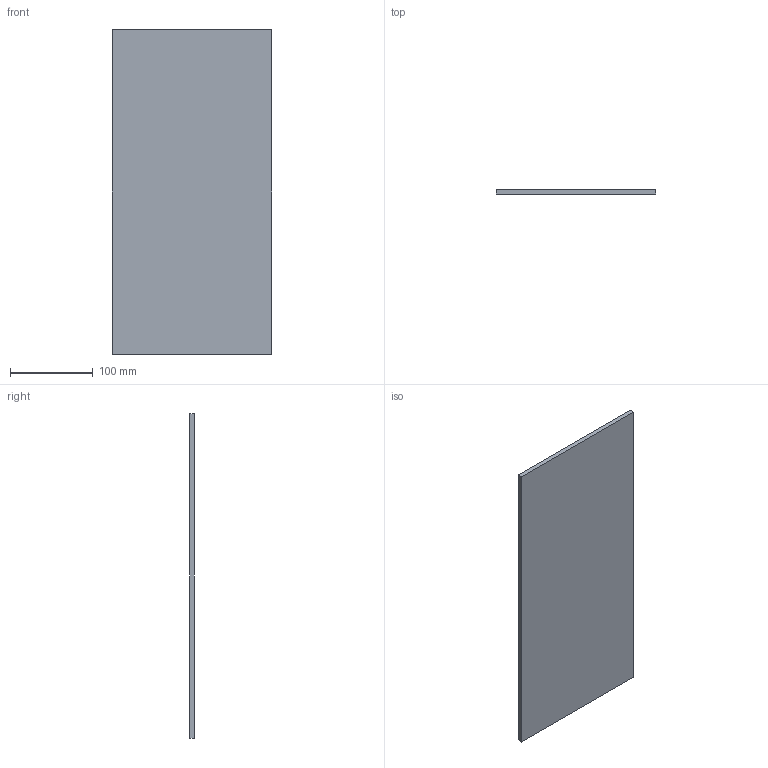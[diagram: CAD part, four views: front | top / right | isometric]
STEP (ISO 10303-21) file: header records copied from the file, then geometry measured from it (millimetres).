
FILE_DESCRIPTION (( 'STEP AP214' ), '1' );
FILE_NAME ('HTIS_2040-6.STEP', '2015-11-10T23:55:54', ( '' ), ( '' ), 'SwSTEP 2.0', 'SolidWorks 2014', '' );
FILE_SCHEMA (( 'AUTOMOTIVE_DESIGN' ));
Length unit declared in the file: millimetre
Products named in the file (1): HTIS_2040-6
Bounding box: 192 x 6 x 392 mm (x, y, z)
Volume: 451584 mm3; surface area: 157536 mm2
Topology: 1 solids, 1 shells, 6 faces, 12 edges, 8 vertices
Faces by surface type: plane 6
Entity records: 190 total; most frequent: CARTESIAN_POINT 27, DIRECTION 26, ORIENTED_EDGE 24, EDGE_CURVE 12, LINE 12, VECTOR 12, VERTEX_POINT 8, AXIS2_PLACEMENT_3D 7
